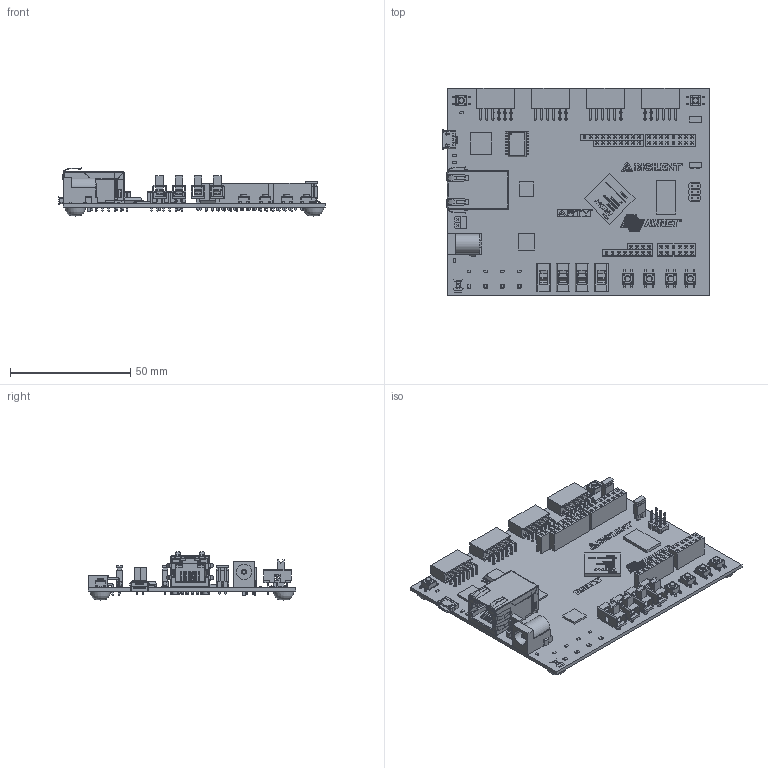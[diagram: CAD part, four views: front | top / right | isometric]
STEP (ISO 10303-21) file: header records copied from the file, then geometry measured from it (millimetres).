
FILE_DESCRIPTION(/* description */ ('Alibre Inc.'),/* implementation_level */ '2;1');
FILE_NAME(/* name */ 'export0',/* time_stamp */ '2016-06-20T11:53:08-07:00',/* author */ (''),/* organization */ (''),/* preprocessor_version */ 'ST-DEVELOPER v14',/* originating_system */ 'Alibre',/* authorisation */ '');
FILE_SCHEMA (('AUTOMOTIVE_DESIGN'));
Products named in the file (36): CUI_PJ-102A; 476540001
Bounding box: 111.22 x 86.36 x 20 mm (x, y, z)
Volume: 27214.2 mm3; surface area: 44019.2 mm2
Topology: 98 solids, 98 shells, 9698 faces, 25363 edges, 16030 vertices
Faces by surface type: plane 6880, cylinder 1686, bspline 656, torus 223, sphere 178, extrusion 51, cone 20, revolution 4
Full cylindrical faces by diameter (mm): 0.818 x24, 0.89 x6, 1.02 x4, 1.067 x120, 1.27 x12, 1.5 x12, 2.2 x2, 2.57 x2, 2.8 x2
Entity records: 193956 total; most frequent: CARTESIAN_POINT 39857, ORIENTED_EDGE 32654, DIRECTION 23988, EDGE_CURVE 16327, VECTOR 12956, LINE 12905, VERTEX_POINT 10566, AXIS2_PLACEMENT_3D 7617
